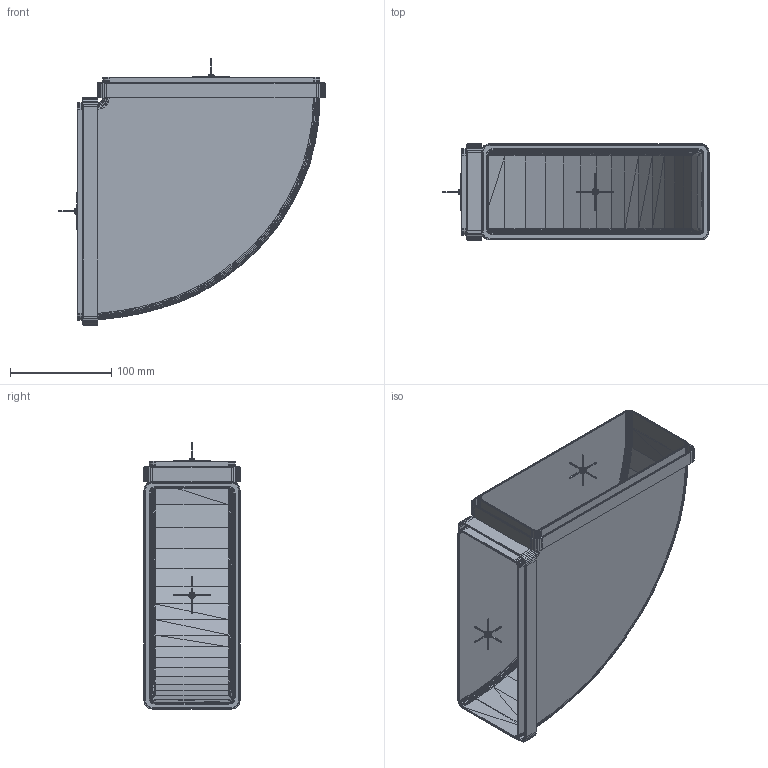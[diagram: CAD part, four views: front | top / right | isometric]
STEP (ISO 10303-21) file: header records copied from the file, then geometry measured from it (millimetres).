
FILE_DESCRIPTION(('FreeCAD Model'),'2;1');
FILE_NAME('Open CASCADE Shape Model','2024-04-12T12:54:16',('Author'),( ''),'Open CASCADE STEP processor 7.6','FreeCAD','Unknown');
FILE_SCHEMA(('AUTOMOTIVE_DESIGN { 1 0 10303 214 1 1 1 1 }'));
Length unit declared in the file: millimetre
Products named in the file (6): Unnamed; Tube_002 (Solid); _Cross_b_002 (Solid); _Cross_f_002 (Solid); Object001_002 (Solid); Object002_002 (Solid)
Assembly tree (5 placements, depth 2):
  Unnamed
    Tube_002 (Solid)
    _Cross_b_002 (Solid)
    _Cross_f_002 (Solid)
    Object001_002 (Solid)
    Object002_002 (Solid)
Bounding box: 263.11 x 95 x 263.22 mm (x, y, z)
Volume: 212306.7 mm3; surface area: 301910.8 mm2
Topology: 3 solids, 5 shells, 6716 faces, 10820 edges, 4115 vertices
Faces by surface type: plane 6716
Entity records: 137736 total; most frequent: DIRECTION 24264, CARTESIAN_POINT 21657, ORIENTED_EDGE 21496, EDGE_CURVE 10820, LINE 10820, VECTOR 10820, FACE_BOUND 6723, EDGE_LOOP 6723
